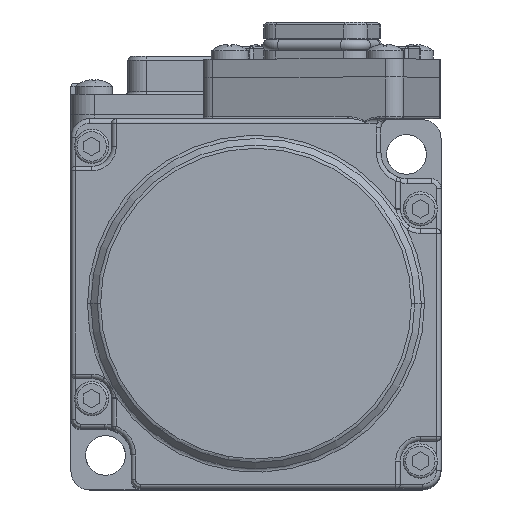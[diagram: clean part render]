
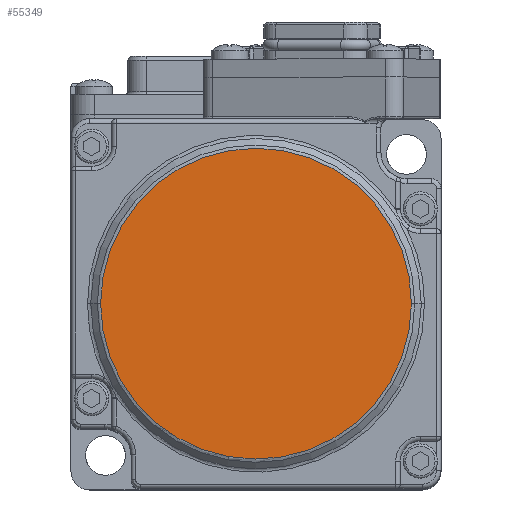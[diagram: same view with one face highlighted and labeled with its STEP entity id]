
A CAD part, top view. The second image highlights one B-rep face of the part: STEP entity #55349.
In plain terms, the highlighted planar face has unit normal (0, 0, 1).
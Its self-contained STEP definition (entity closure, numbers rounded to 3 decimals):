
#50896=CARTESIAN_POINT('',(0.,0.,17.5));
#50897=DIRECTION('',(0.,0.,-1.));
#50898=DIRECTION('',(1.,0.,0.));
#50899=AXIS2_PLACEMENT_3D('',#50896,#50897,#50898);
#50901=CARTESIAN_POINT('',(0.,0.,17.5));
#50902=DIRECTION('',(0.,0.,-1.));
#50903=DIRECTION('',(1.,-0.008,0.));
#50904=AXIS2_PLACEMENT_3D('',#50901,#50902,#50903);
#50906=CARTESIAN_POINT('',(0.,0.,17.5));
#50907=DIRECTION('',(0.,0.,-1.));
#50908=DIRECTION('',(-1.,0.,0.));
#50909=AXIS2_PLACEMENT_3D('',#50906,#50907,#50908);
#50911=CARTESIAN_POINT('',(0.,0.,17.5));
#50912=DIRECTION('',(0.,0.,-1.));
#50913=DIRECTION('',(-1.,0.008,0.));
#50914=AXIS2_PLACEMENT_3D('',#50911,#50912,#50913);
#51633=CARTESIAN_POINT('',(-16.792,0.134,17.5));
#51634=CARTESIAN_POINT('',(16.793,0.,17.5));
#51635=VERTEX_POINT('',#51633);
#51636=VERTEX_POINT('',#51634);
#51637=CARTESIAN_POINT('',(-16.793,0.,17.5));
#51638=VERTEX_POINT('',#51637);
#51639=CARTESIAN_POINT('',(16.792,-0.134,17.5));
#51640=VERTEX_POINT('',#51639);
#55336=CARTESIAN_POINT('',(0.,0.,17.5));
#55337=DIRECTION('',(0.,0.,1.));
#55338=DIRECTION('',(1.,0.,0.));
#55339=AXIS2_PLACEMENT_3D('',#55336,#55337,#55338);
#55340=PLANE('',#55339);
#55342=ORIENTED_EDGE('',*,*,#55341,.T.);
#55344=ORIENTED_EDGE('',*,*,#55343,.T.);
#55345=ORIENTED_EDGE('',*,*,#55324,.T.);
#55346=ORIENTED_EDGE('',*,*,#55322,.T.);
#55347=EDGE_LOOP('',(#55342,#55344,#55345,#55346));
#55348=FACE_OUTER_BOUND('',#55347,.F.);
#55349=ADVANCED_FACE('',(#55348),#55340,.T.);
#50900=CIRCLE('',#50899,16.793);
#50905=CIRCLE('',#50904,16.793);
#50910=CIRCLE('',#50909,16.793);
#50915=CIRCLE('',#50914,16.793);
#55322=EDGE_CURVE('',#51635,#51636,#50915,.T.);
#55324=EDGE_CURVE('',#51638,#51635,#50910,.T.);
#55341=EDGE_CURVE('',#51636,#51640,#50900,.T.);
#55343=EDGE_CURVE('',#51640,#51638,#50905,.T.);
